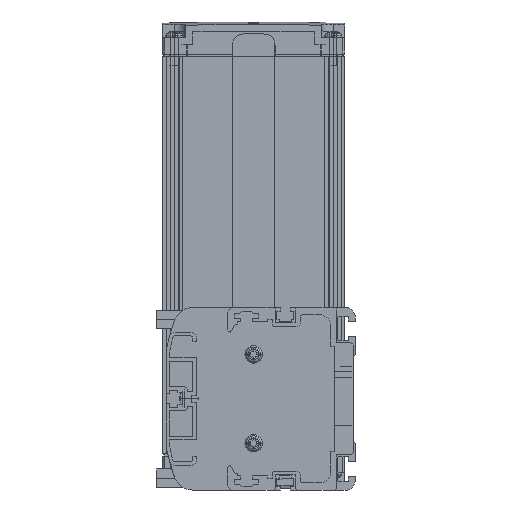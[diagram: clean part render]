
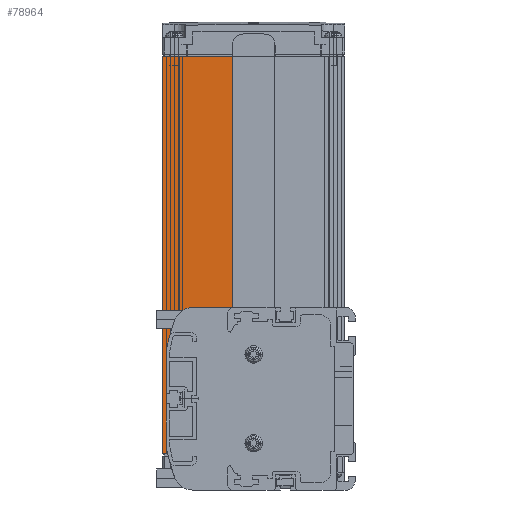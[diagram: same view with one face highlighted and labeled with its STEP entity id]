
A CAD part, left-side view. The second image highlights one B-rep face of the part: STEP entity #78964.
In plain terms, the highlighted planar face has unit normal (-1, 0, 0).
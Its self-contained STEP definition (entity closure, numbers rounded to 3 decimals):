
#77546=DIRECTION('',(0.,-1.,0.));
#77547=VECTOR('',#77546,17.9);
#77548=CARTESIAN_POINT('',(3.,70.5,27.5));
#77549=LINE('',#77548,#77547);
#77554=DIRECTION('',(0.,0.,1.));
#77555=VECTOR('',#77554,51.);
#77556=CARTESIAN_POINT('',(3.,70.5,-23.5));
#77557=LINE('',#77556,#77555);
#77562=DIRECTION('',(0.,-1.,0.));
#77563=VECTOR('',#77562,12.);
#77564=CARTESIAN_POINT('',(3.,82.5,-23.5));
#77565=LINE('',#77564,#77563);
#77566=DIRECTION('',(0.,0.,-1.));
#77567=VECTOR('',#77566,170.);
#77568=CARTESIAN_POINT('',(3.,82.5,146.5));
#77569=LINE('',#77568,#77567);
#77570=DIRECTION('',(0.,1.,0.));
#77571=VECTOR('',#77570,29.9);
#77572=CARTESIAN_POINT('',(3.,52.6,146.5));
#77573=LINE('',#77572,#77571);
#77608=DIRECTION('',(0.,0.,1.));
#77609=VECTOR('',#77608,119.);
#77610=CARTESIAN_POINT('',(3.,52.6,27.5));
#77611=LINE('',#77610,#77609);
#77765=CARTESIAN_POINT('',(3.,70.5,-23.5));
#77766=VERTEX_POINT('',#77765);
#77767=CARTESIAN_POINT('',(3.,82.5,-23.5));
#77768=VERTEX_POINT('',#77767);
#77903=CARTESIAN_POINT('',(3.,52.6,146.5));
#77904=VERTEX_POINT('',#77903);
#77905=CARTESIAN_POINT('',(3.,82.5,146.5));
#77906=VERTEX_POINT('',#77905);
#77963=CARTESIAN_POINT('',(3.,70.5,27.5));
#77964=CARTESIAN_POINT('',(3.,52.6,27.5));
#77965=VERTEX_POINT('',#77963);
#77966=VERTEX_POINT('',#77964);
#78949=CARTESIAN_POINT('',(3.,67.55,61.5));
#78950=DIRECTION('',(1.,0.,0.));
#78951=DIRECTION('',(0.,-1.,0.));
#78952=AXIS2_PLACEMENT_3D('',#78949,#78950,#78951);
#78953=PLANE('',#78952);
#78954=ORIENTED_EDGE('',*,*,#78925,.F.);
#78955=ORIENTED_EDGE('',*,*,#78942,.F.);
#78956=ORIENTED_EDGE('',*,*,#78070,.F.);
#78958=ORIENTED_EDGE('',*,*,#78957,.F.);
#78959=ORIENTED_EDGE('',*,*,#78481,.F.);
#78961=ORIENTED_EDGE('',*,*,#78960,.F.);
#78962=EDGE_LOOP('',(#78954,#78955,#78956,#78958,#78959,#78961));
#78963=FACE_OUTER_BOUND('',#78962,.F.);
#78964=ADVANCED_FACE('',(#78963),#78953,.F.);
#78070=EDGE_CURVE('',#77768,#77766,#77565,.T.);
#78481=EDGE_CURVE('',#77904,#77906,#77573,.T.);
#78925=EDGE_CURVE('',#77965,#77966,#77549,.T.);
#78942=EDGE_CURVE('',#77766,#77965,#77557,.T.);
#78957=EDGE_CURVE('',#77906,#77768,#77569,.T.);
#78960=EDGE_CURVE('',#77966,#77904,#77611,.T.);
